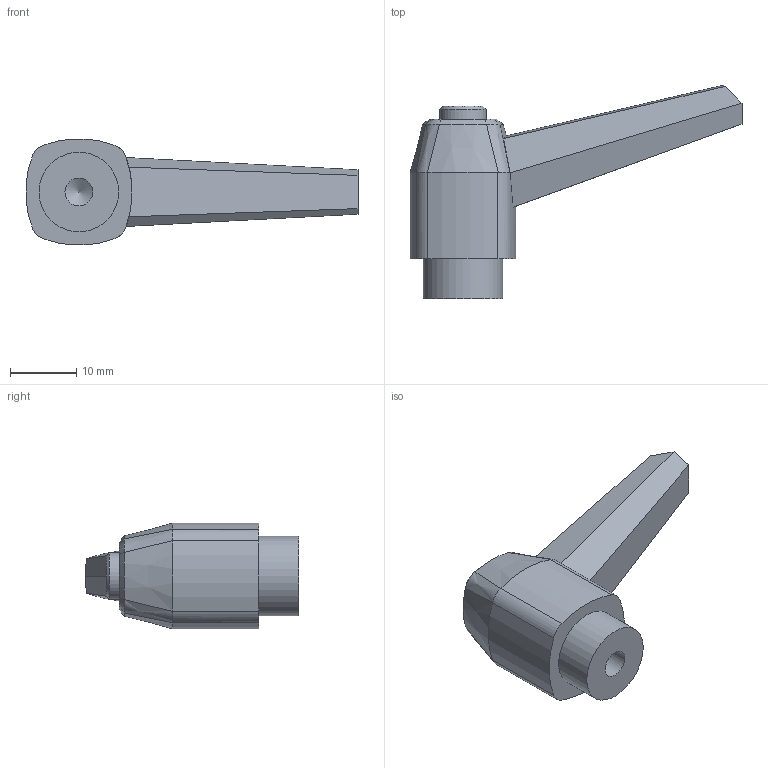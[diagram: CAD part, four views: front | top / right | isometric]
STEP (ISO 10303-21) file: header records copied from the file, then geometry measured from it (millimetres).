
FILE_DESCRIPTION (( 'STEP AP214' ), '1' );
FILE_NAME ('500-42-M5-SW.step', '2022-04-13T07:18:36', ( '' ), ( '' ), 'SwSTEP 2.0', 'SolidWorks 2019', '' );
FILE_SCHEMA (( 'AUTOMOTIVE_DESIGN' ));
Length unit declared in the file: millimetre
Products named in the file (1): 500-42-M5-SW
Bounding box: 49.96 x 32.15 x 15.92 mm (x, y, z)
Volume: 6956.6 mm3; surface area: 2939.8 mm2
Topology: 1 solids, 1 shells, 51 faces, 123 edges, 78 vertices
Faces by surface type: plane 21, cylinder 12, cone 10, bspline 8
Full cylindrical faces by diameter (mm): 4.2 x1, 7 x1, 8 x1, 12 x1
Entity records: 1822 total; most frequent: CARTESIAN_POINT 729, ORIENTED_EDGE 232, DIRECTION 182, EDGE_CURVE 116, VERTEX_POINT 77, AXIS2_PLACEMENT_3D 74, EDGE_LOOP 61, FACE_OUTER_BOUND 55
